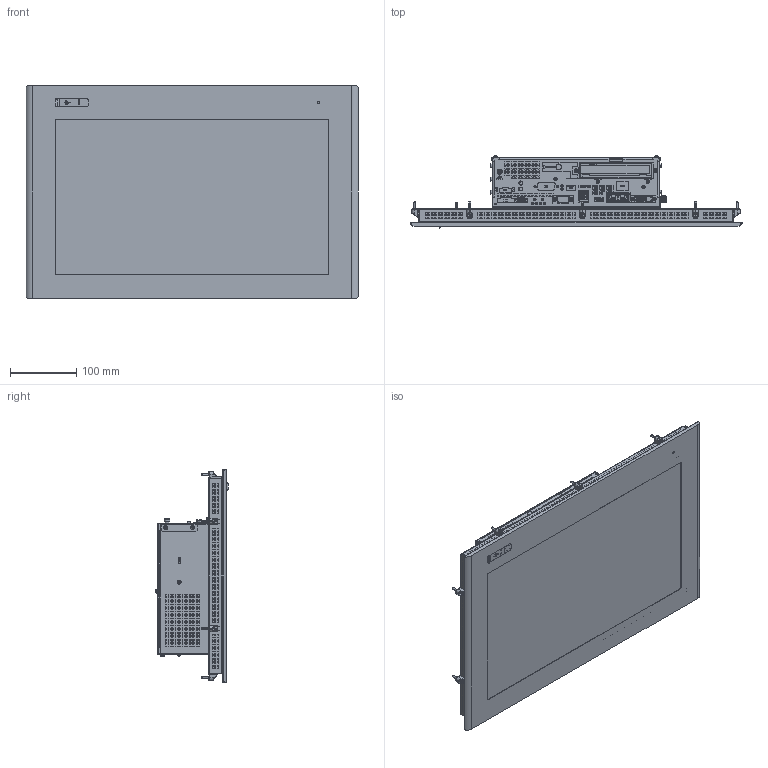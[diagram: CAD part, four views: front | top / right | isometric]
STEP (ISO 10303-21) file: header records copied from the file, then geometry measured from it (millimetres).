
FILE_DESCRIPTION((''),'2;1');
FILE_NAME('C6E22-Panel_185W_RES_S1','2017-03-07T',('manpal'),(''),'PRO/ENGINEER BY PARAMETRIC TECHNOLOGY CORPORATION, 2013410','PRO/ENGINEER BY PARAMETRIC TECHNOLOGY CORPORATION, 2013410','');
FILE_SCHEMA(('AUTOMOTIVE_DESIGN { 1 0 10303 214 1 1 1 1 }'));
Products named in the file (2): C6E22-Panel_185W_RES_S1_
Assembly tree (1 placements, depth 2):
  C6E22-Panel_185W_RES_S1_
    C6E22-Panel_185W_RES_S1_
Bounding box: 500 x 109.32 x 320 mm (x, y, z)
Surface area: 875304.7 mm2 (no closed solid volume)
Topology: 0 solids, 353 shells, 5694 faces, 24216 edges, 18658 vertices
Faces by surface type: plane 4474, cylinder 710, cone 260, bspline 167, sphere 42, torus 39, extrusion 2
Entity records: 276929 total; most frequent: CARTESIAN_POINT 65721, DIRECTION 37009, ORIENTED_EDGE 35054, EDGE_CURVE 24168, VECTOR 19795, LINE 19793, VERTEX_POINT 18658, AXIS2_PLACEMENT_3D 8607
